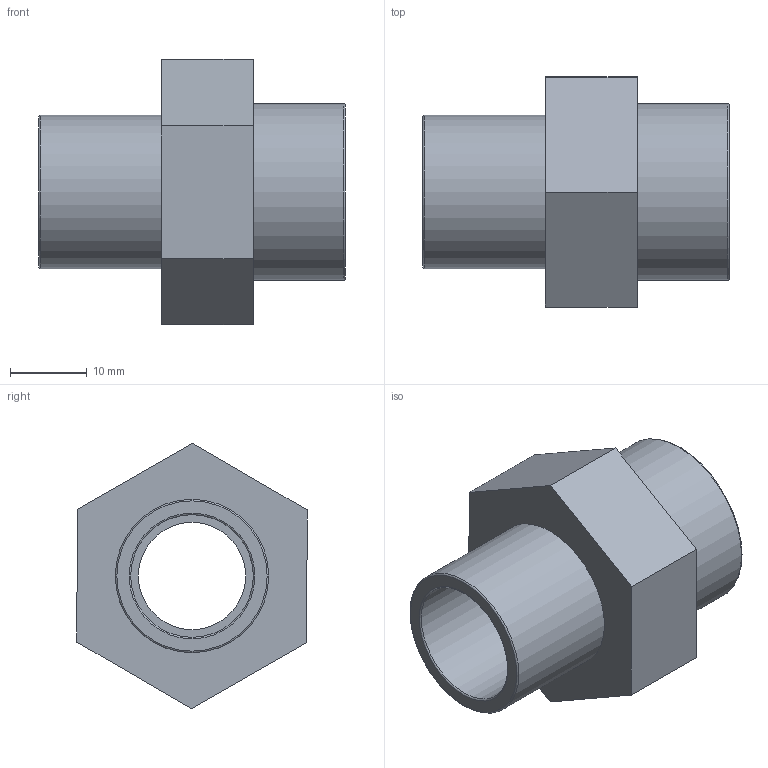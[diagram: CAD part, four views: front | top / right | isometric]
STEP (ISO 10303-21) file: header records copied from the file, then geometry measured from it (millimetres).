
FILE_DESCRIPTION(/* description */ ('PLASSON ADAPTOR SOCKET M.F. 20-1/2" CEM-THR'),/* implementation_level */ '2;1');
FILE_NAME(/* name */ 'C:\Dropbox\KIMPROJECTS-Inventor\99-16-3568-Processing\PVC Catalog 2017\050302\050302020005.ipt.stp',/* time_stamp */ '2017-12-07T15:53:59+02:00',/* author */ ('KIM'),/* organization */ (''),/* preprocessor_version */ 'ST-DEVELOPER v15.6',/* originating_system */ 'Autodesk Inventor 2015',/* authorisation */ '');
FILE_SCHEMA (('AUTOMOTIVE_DESIGN { 1 0 10303 214 3 1 1 }'));
Length unit declared in the file: millimetre
Products named in the file (1): 050302020005
Bounding box: 40 x 30.05 x 34.64 mm (x, y, z)
Volume: 10575.1 mm3; surface area: 6444.2 mm2
Topology: 1 solids, 1 shells, 21 faces, 41 edges, 26 vertices
Faces by surface type: plane 12, cylinder 5, torus 4
Full cylindrical faces by diameter (mm): 14 x1, 16 x1, 18.631 x1, 20 x1, 23 x1
Entity records: 520 total; most frequent: DIRECTION 90, CARTESIAN_POINT 80, ORIENTED_EDGE 64, EDGE_LOOP 36, AXIS2_PLACEMENT_3D 36, EDGE_CURVE 32, VERTEX_POINT 26, FACE_OUTER_BOUND 21
